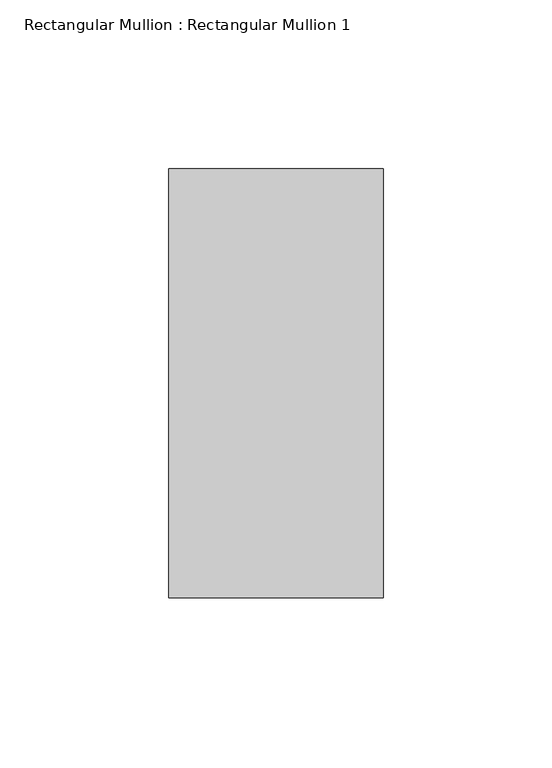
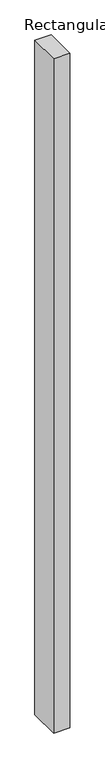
"""IFC4 building model written with IfcOpenShell, lengths in millimetres: member geometry, Rectangular Mullion : Rectangular Mullion 1."""

from ifc_helpers import new_model, si_unit, frame, origin, place, context, project, spatial, polyline, outline, extrude, source, transform, mapped, element, save


def rectangular_mullion_rectangular_mullion_1_bbb34006(model_context):
    return source(origin(), model_context, "Body", "SweptSolid", [
        extrude(outline(polyline([(0.0, 63.5), (0.0, -63.5), (-63.5, -63.5), (-63.5, 63.5), (0.0, 63.5)])), frame((0.0, 0.0, -2800.0), z_axis=(0.0, 0.0, 1.0), x_axis=(1.0, 0.0, 0.0)), (0.0, 0.0, 1.0), 2800.0),
    ])


if __name__ == "__main__":
    model = new_model("IFC4")
    model_context = context("Model", 3, world=origin())
    ifc_project = project(units=[si_unit("LENGTHUNIT", "METRE", prefix="MILLI")], contexts=[model_context])
    site = spatial("IfcSite", under=ifc_project)
    building = spatial("IfcBuilding", under=site)
    placement = place(None, origin())
    rectangular_mullion_rectangular_mullion_1_shape = rectangular_mullion_rectangular_mullion_1_bbb34006(model_context)
    element("IfcMember", 1, ObjectType="Rectangular Mullion : Rectangular Mullion 1", at=placement, inside=building, context=model_context, shape_type="MappedRepresentation", body=[
        mapped(rectangular_mullion_rectangular_mullion_1_shape, transform((0.0, 0.0, 0.0), x_axis=(1.0, 0.0, 0.0), y_axis=(0.0, 1.0, 0.0), z_axis=(0.0, 0.0, 1.0))),
    ])
    save(model, "model.ifc")
